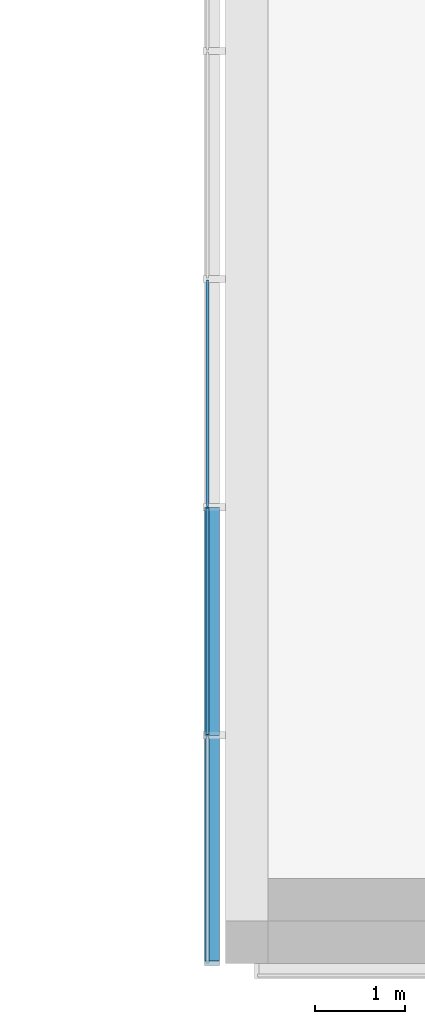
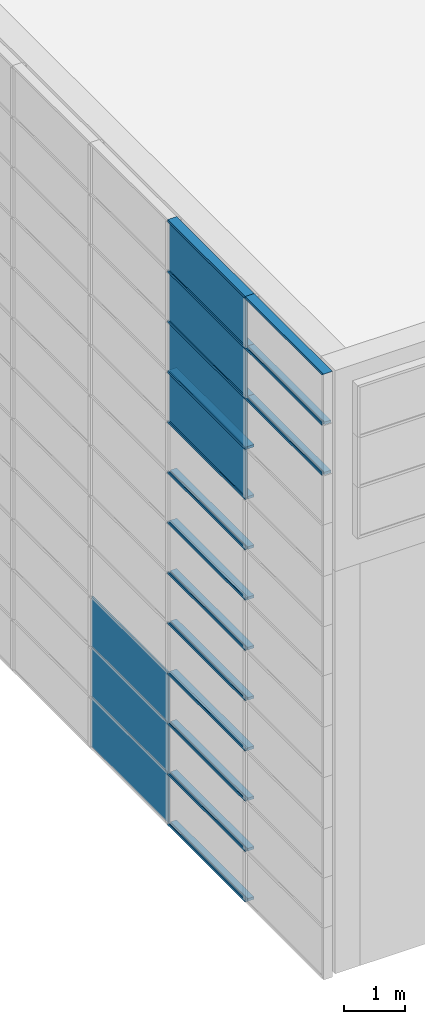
# One storey, part 7 of 105: 26 building element parts, 4 elements without a shape of their own.
"""IFC4 building model written with IfcOpenShell, lengths in millimetres."""

from ifc_helpers import new_model, entity, si_unit, converted_unit, derived_unit, direction, frame, origin_with_axes, place, context, subcontext, project, spatial, triangles, material, element, aggregate, save


model = new_model("IFC4")

# Units and contexts
model_context = context("Model", 3, precision=1e-05, world=origin_with_axes(), true_north=direction((0.0, 1.0)))
body_context = subcontext(model_context, "Body", "Model", "MODEL_VIEW")
ifc_project = project(units=[si_unit("LENGTHUNIT", "METRE", prefix="MILLI"), si_unit("AREAUNIT", "SQUARE_METRE"), si_unit("VOLUMEUNIT", "CUBIC_METRE"), converted_unit("PLANEANGLEUNIT", "DEGREE", entity("IfcLengthMeasure", 0.017453), si_unit("PLANEANGLEUNIT", "RADIAN"), dimensions=[0, 0, 0, 0, 0, 0, 0]), si_unit("SOLIDANGLEUNIT", "STERADIAN"), si_unit("MASSUNIT", "GRAM"), si_unit("TIMEUNIT", "SECOND"), si_unit("THERMODYNAMICTEMPERATUREUNIT", "DEGREE_CELSIUS"), si_unit("LUMINOUSINTENSITYUNIT", "LUMEN"), si_unit("POWERUNIT", "WATT"), derived_unit("THERMALTRANSMITTANCEUNIT", [(si_unit("POWERUNIT", "WATT"), 1), (si_unit("THERMODYNAMICTEMPERATUREUNIT", "KELVIN"), -1), (si_unit("AREAUNIT", "SQUARE_METRE"), -1)])], contexts=[model_context])

# Site, building, storey
site_placement = place(None, origin_with_axes())
site = spatial("IfcSite", under=ifc_project, at=site_placement, Name="Default Site", CompositionType="ELEMENT")
building_placement = place(site_placement, origin_with_axes())
building = spatial("IfcBuilding", under=site, at=building_placement, Name="Default Building", CompositionType="ELEMENT")
storey_placement = place(building_placement, origin_with_axes())
storey = spatial("IfcBuildingStorey", under=building, at=storey_placement, Name="OG - Story", CompositionType="ELEMENT", Elevation=0.0)

# Curtain wall, building element parts
curtain_wall_1_placement = place(storey_placement, origin_with_axes())
curtain_wall_1 = element("IfcCurtainWall", 1, at=curtain_wall_1_placement, inside=storey, Name="Fassade-003", PredefinedType="NOTDEFINED")
ifc_material_1 = material(Name="Normalglas")
building_element_part_1_placement = place(curtain_wall_1_placement, frame((31551.391327, -51326.104944, 0.0), z_axis=(0.0, 0.0, 1.0), x_axis=(1.0, 0.0, 0.0)))
building_element_part_1 = element("IfcBuildingElementPart", 2, at=building_element_part_1_placement, material=ifc_material_1, Name="Normalglas", PredefinedType="NOTDEFINED", context=body_context, shape_type="Tessellation", body=[
    triangles([(15.0, 6305.789, 995.0), (-14.999, 6305.789, 995.0), (-14.999, 3799.474, 995.0), (15.0, 3799.474, 995.0), (15.0, 6305.789, 5.0), (-14.999, 6305.789, 5.0), (-14.999, 3799.474, 5.0), (15.0, 3799.474, 5.0)], [[1, 2, 3], [1, 3, 4], [5, 6, 2], [5, 2, 1], [2, 6, 7], [2, 7, 3], [4, 3, 7], [4, 7, 8], [1, 4, 8], [1, 8, 5], [8, 7, 6], [8, 6, 5]], closed=False),
])
building_element_part_2_placement = place(curtain_wall_1_placement, frame((31551.391327, -51326.104944, 0.0), z_axis=(0.0, 0.0, 1.0), x_axis=(1.0, 0.0, 0.0)))
building_element_part_2 = element("IfcBuildingElementPart", 3, at=building_element_part_2_placement, material=ifc_material_1, Name="Normalglas", PredefinedType="NOTDEFINED", context=body_context, shape_type="Tessellation", body=[
    triangles([(15.0, 6305.789, 1995.0), (-14.999, 6305.789, 1995.0), (-14.999, 3799.474, 1995.0), (15.0, 3799.474, 1995.0), (15.0, 6305.789, 1005.0), (-14.999, 6305.789, 1005.0), (-14.999, 3799.474, 1005.0), (15.0, 3799.474, 1005.0)], [[1, 2, 3], [1, 3, 4], [5, 6, 2], [5, 2, 1], [2, 6, 7], [2, 7, 3], [4, 3, 7], [4, 7, 8], [1, 4, 8], [1, 8, 5], [8, 7, 6], [8, 6, 5]], closed=False),
])
building_element_part_3_placement = place(curtain_wall_1_placement, frame((31551.391327, -51326.104944, 0.0), z_axis=(0.0, 0.0, 1.0), x_axis=(1.0, 0.0, 0.0)))
building_element_part_3 = element("IfcBuildingElementPart", 4, at=building_element_part_3_placement, material=ifc_material_1, Name="Normalglas", PredefinedType="NOTDEFINED", context=body_context, shape_type="Tessellation", body=[
    triangles([(15.0, 6305.789, 2995.0), (-14.999, 6305.789, 2995.0), (-14.999, 3799.474, 2995.0), (15.0, 3799.474, 2995.0), (15.0, 6305.789, 2005.0), (-14.999, 6305.789, 2005.0), (-14.999, 3799.474, 2005.0), (15.0, 3799.474, 2005.0)], [[1, 2, 3], [1, 3, 4], [5, 6, 2], [5, 2, 1], [2, 6, 7], [2, 7, 3], [4, 3, 7], [4, 7, 8], [1, 4, 8], [1, 8, 5], [8, 7, 6], [8, 6, 5]], closed=False),
])
ifc_material_2 = material(Name="Blech")
building_element_part_4_placement = place(curtain_wall_1_placement, frame((31551.391327, -51326.104944, 0.0), z_axis=(0.0, 0.0, 1.0), x_axis=(1.0, 0.0, 0.0)))
building_element_part_4 = element("IfcBuildingElementPart", 5, at=building_element_part_4_placement, material=ifc_material_2, Name="Blech", PredefinedType="NOTDEFINED", context=body_context, shape_type="Tessellation", body=[
    triangles([(15.0, 3789.474, 25.0), (133.0, 3789.474, 25.0), (15.0, 3789.474, 5.0), (133.0, 3789.474, -24.999), (-14.999, 3789.474, 5.0), (-34.999, 3789.474, -24.999), (-34.999, 3789.474, 25.0), (-14.999, 3789.474, 25.0), (15.0, 1263.158, 5.0), (15.0, 1263.158, 25.0), (133.0, 1263.158, 25.0), (133.0, 1263.158, -24.999), (-34.999, 1263.158, -24.999), (-34.999, 1263.158, 25.0), (-14.999, 1263.158, 25.0), (-14.999, 1263.158, 5.0)], [[1, 2, 3], [3, 2, 4], [3, 4, 5], [5, 4, 6], [5, 6, 7], [5, 7, 8], [3, 9, 10], [3, 10, 1], [10, 11, 2], [10, 2, 1], [11, 12, 4], [11, 4, 2], [12, 13, 6], [12, 6, 4], [13, 14, 7], [13, 7, 6], [8, 7, 14], [8, 14, 15], [15, 16, 5], [15, 5, 8], [5, 16, 9], [5, 9, 3], [16, 9, 12], [16, 12, 13], [16, 13, 14], [16, 14, 15], [11, 12, 9], [11, 9, 10]], closed=False),
])
building_element_part_5_placement = place(curtain_wall_1_placement, frame((31551.391327, -51326.104944, 0.0), z_axis=(0.0, 0.0, 1.0), x_axis=(1.0, 0.0, 0.0)))
building_element_part_5 = element("IfcBuildingElementPart", 6, at=building_element_part_5_placement, material=ifc_material_2, Name="Blech", PredefinedType="NOTDEFINED", context=body_context, shape_type="Tessellation", body=[
    triangles([(-14.999, 3789.474, 1025.0), (-34.999, 3789.474, 1025.0), (-14.999, 3789.474, 1005.0), (-14.999, 3789.474, 995.0), (15.0, 3789.474, 1005.0), (133.0, 3789.474, 1025.0), (15.0, 3789.474, 1025.0), (-34.999, 3789.474, 975.0), (-14.999, 3789.474, 975.0), (15.0, 3789.474, 995.0), (15.0, 3789.474, 975.0), (133.0, 3789.474, 975.0), (15.0, 1263.158, 995.0), (-14.999, 1263.158, 995.0), (-14.999, 1263.158, 975.0), (-34.999, 1263.158, 975.0), (-34.999, 1263.158, 1025.0), (-14.999, 1263.158, 1025.0), (-14.999, 1263.158, 1005.0), (15.0, 1263.158, 1005.0), (15.0, 1263.158, 1025.0), (133.0, 1263.158, 1025.0), (133.0, 1263.158, 975.0), (15.0, 1263.158, 975.0)], [[1, 2, 3], [3, 2, 4], [3, 4, 5], [5, 4, 6], [5, 6, 7], [8, 9, 4], [8, 4, 2], [6, 4, 10], [6, 10, 11], [6, 11, 12], [10, 13, 14], [10, 14, 4], [4, 14, 15], [4, 15, 9], [15, 16, 8], [15, 8, 9], [8, 16, 17], [8, 17, 2], [18, 1, 2], [18, 2, 17], [1, 18, 19], [1, 19, 3], [5, 3, 19], [5, 19, 20], [7, 5, 20], [7, 20, 21], [7, 21, 22], [7, 22, 6], [6, 22, 23], [6, 23, 12], [11, 12, 23], [11, 23, 24], [11, 24, 13], [11, 13, 10], [21, 22, 20], [20, 22, 13], [20, 13, 19], [19, 13, 14], [19, 14, 17], [17, 14, 15], [17, 15, 16], [23, 24, 13], [23, 13, 22], [19, 17, 18]], closed=False),
])
building_element_part_6_placement = place(curtain_wall_1_placement, frame((31551.391327, -51326.104944, 0.0), z_axis=(0.0, 0.0, 1.0), x_axis=(1.0, 0.0, 0.0)))
building_element_part_6 = element("IfcBuildingElementPart", 7, at=building_element_part_6_placement, material=ifc_material_2, Name="Blech", PredefinedType="NOTDEFINED", context=body_context, shape_type="Tessellation", body=[
    triangles([(-14.999, 3789.474, 2025.0), (-34.999, 3789.474, 2025.0), (-14.999, 3789.474, 2005.0), (-14.999, 3789.474, 1995.0), (15.0, 3789.474, 2005.0), (133.0, 3789.474, 2025.0), (15.0, 3789.474, 2025.0), (-34.999, 3789.474, 1975.0), (-14.999, 3789.474, 1975.0), (15.0, 3789.474, 1995.0), (15.0, 3789.474, 1975.0), (133.0, 3789.474, 1975.0), (15.0, 1263.158, 1995.0), (-14.999, 1263.158, 1995.0), (-14.999, 1263.158, 1975.0), (-34.999, 1263.158, 1975.0), (-34.999, 1263.158, 2025.0), (-14.999, 1263.158, 2025.0), (-14.999, 1263.158, 2005.0), (15.0, 1263.158, 2005.0), (15.0, 1263.158, 2025.0), (133.0, 1263.158, 2025.0), (133.0, 1263.158, 1975.0), (15.0, 1263.158, 1975.0)], [[1, 2, 3], [3, 2, 4], [3, 4, 5], [5, 4, 6], [5, 6, 7], [8, 9, 4], [8, 4, 2], [6, 4, 10], [6, 10, 11], [6, 11, 12], [10, 13, 14], [10, 14, 4], [4, 14, 15], [4, 15, 9], [15, 16, 8], [15, 8, 9], [8, 16, 17], [8, 17, 2], [18, 1, 2], [18, 2, 17], [1, 18, 19], [1, 19, 3], [5, 3, 19], [5, 19, 20], [7, 5, 20], [7, 20, 21], [7, 21, 22], [7, 22, 6], [6, 22, 23], [6, 23, 12], [11, 12, 23], [11, 23, 24], [11, 24, 13], [11, 13, 10], [21, 22, 20], [20, 22, 13], [20, 13, 19], [19, 13, 14], [19, 14, 17], [17, 14, 15], [17, 15, 16], [23, 24, 13], [23, 13, 22], [19, 17, 18]], closed=False),
])
building_element_part_7_placement = place(curtain_wall_1_placement, frame((31551.391327, -51326.104944, 0.0), z_axis=(0.0, 0.0, 1.0), x_axis=(1.0, 0.0, 0.0)))
building_element_part_7 = element("IfcBuildingElementPart", 8, at=building_element_part_7_placement, material=ifc_material_2, Name="Blech", PredefinedType="NOTDEFINED", context=body_context, shape_type="Tessellation", body=[
    triangles([(-14.999, 3789.474, 2995.0), (15.0, 3789.474, 2995.0), (133.0, 3789.474, 3025.0), (-34.999, 3789.474, 3025.0), (-34.999, 3789.474, 2975.0), (-14.999, 3789.474, 2975.0), (15.0, 3789.474, 2975.0), (133.0, 3789.474, 2975.0), (15.0, 1263.158, 2995.0), (-14.999, 1263.158, 2995.0), (-14.999, 1263.158, 2975.0), (-34.999, 1263.158, 2975.0), (-34.999, 1263.158, 3025.0), (133.0, 1263.158, 3025.0), (133.0, 1263.158, 2975.0), (15.0, 1263.158, 2975.0)], [[1, 2, 3], [1, 3, 4], [1, 4, 5], [1, 5, 6], [7, 8, 3], [7, 3, 2], [1, 2, 9], [1, 9, 10], [11, 6, 1], [11, 1, 10], [6, 11, 12], [6, 12, 5], [13, 4, 5], [13, 5, 12], [14, 3, 4], [14, 4, 13], [15, 8, 3], [15, 3, 14], [16, 7, 8], [16, 8, 15], [2, 7, 16], [2, 16, 9], [10, 9, 14], [10, 14, 13], [10, 13, 12], [10, 12, 11], [16, 15, 14], [16, 14, 9]], closed=False),
])
aggregate(curtain_wall_1, [building_element_part_1, building_element_part_2, building_element_part_3, building_element_part_4, building_element_part_5, building_element_part_6, building_element_part_7])

curtain_wall_2_placement = place(storey_placement, origin_with_axes())
curtain_wall_2 = element("IfcCurtainWall", 9, at=curtain_wall_2_placement, inside=storey, Name="Fassade-003", PredefinedType="NOTDEFINED")
building_element_part_8_placement = place(curtain_wall_2_placement, frame((31551.391327, -51326.104944, 3000.0), z_axis=(0.0, 0.0, 1.0), x_axis=(1.0, 0.0, 0.0)))
building_element_part_8 = element("IfcBuildingElementPart", 10, at=building_element_part_8_placement, material=ifc_material_2, Name="Blech", PredefinedType="NOTDEFINED", context=body_context, shape_type="Tessellation", body=[
    triangles([(15.0, 3789.474, 25.0), (133.0, 3789.474, 25.0), (15.0, 3789.474, 5.0), (133.0, 3789.474, -24.999), (-14.999, 3789.474, 5.0), (-34.999, 3789.474, -24.999), (-34.999, 3789.474, 25.0), (-14.999, 3789.474, 25.0), (15.0, 1263.158, 5.0), (15.0, 1263.158, 25.0), (133.0, 1263.158, 25.0), (133.0, 1263.158, -24.999), (-34.999, 1263.158, -24.999), (-34.999, 1263.158, 25.0), (-14.999, 1263.158, 25.0), (-14.999, 1263.158, 5.0)], [[1, 2, 3], [3, 2, 4], [3, 4, 5], [5, 4, 6], [5, 6, 7], [5, 7, 8], [3, 9, 10], [3, 10, 1], [10, 11, 2], [10, 2, 1], [11, 12, 4], [11, 4, 2], [12, 13, 6], [12, 6, 4], [13, 14, 7], [13, 7, 6], [8, 7, 14], [8, 14, 15], [15, 16, 5], [15, 5, 8], [5, 16, 9], [5, 9, 3], [16, 9, 12], [16, 12, 13], [16, 13, 14], [16, 14, 15], [11, 12, 9], [11, 9, 10]], closed=False),
])
building_element_part_9_placement = place(curtain_wall_2_placement, frame((31551.391327, -51326.104944, 3000.0), z_axis=(0.0, 0.0, 1.0), x_axis=(1.0, 0.0, 0.0)))
building_element_part_9 = element("IfcBuildingElementPart", 11, at=building_element_part_9_placement, material=ifc_material_2, Name="Blech", PredefinedType="NOTDEFINED", context=body_context, shape_type="Tessellation", body=[
    triangles([(-14.999, 3789.474, 1025.0), (-34.999, 3789.474, 1025.0), (-14.999, 3789.474, 1005.0), (-14.999, 3789.474, 995.0), (15.0, 3789.474, 1005.0), (133.0, 3789.474, 1025.0), (15.0, 3789.474, 1025.0), (-34.999, 3789.474, 975.0), (-14.999, 3789.474, 975.0), (15.0, 3789.474, 995.0), (15.0, 3789.474, 975.0), (133.0, 3789.474, 975.0), (15.0, 1263.158, 995.0), (-14.999, 1263.158, 995.0), (-14.999, 1263.158, 975.0), (-34.999, 1263.158, 975.0), (-34.999, 1263.158, 1025.0), (-14.999, 1263.158, 1025.0), (-14.999, 1263.158, 1005.0), (15.0, 1263.158, 1005.0), (15.0, 1263.158, 1025.0), (133.0, 1263.158, 1025.0), (133.0, 1263.158, 975.0), (15.0, 1263.158, 975.0)], [[1, 2, 3], [3, 2, 4], [3, 4, 5], [5, 4, 6], [5, 6, 7], [8, 9, 4], [8, 4, 2], [6, 4, 10], [6, 10, 11], [6, 11, 12], [10, 13, 14], [10, 14, 4], [4, 14, 15], [4, 15, 9], [15, 16, 8], [15, 8, 9], [8, 16, 17], [8, 17, 2], [18, 1, 2], [18, 2, 17], [1, 18, 19], [1, 19, 3], [5, 3, 19], [5, 19, 20], [7, 5, 20], [7, 20, 21], [7, 21, 22], [7, 22, 6], [6, 22, 23], [6, 23, 12], [11, 12, 23], [11, 23, 24], [11, 24, 13], [11, 13, 10], [21, 22, 20], [20, 22, 13], [20, 13, 19], [19, 13, 14], [19, 14, 17], [17, 14, 15], [17, 15, 16], [23, 24, 13], [23, 13, 22], [19, 17, 18]], closed=False),
])
building_element_part_10_placement = place(curtain_wall_2_placement, frame((31551.391327, -51326.104944, 3000.0), z_axis=(0.0, 0.0, 1.0), x_axis=(1.0, 0.0, 0.0)))
building_element_part_10 = element("IfcBuildingElementPart", 12, at=building_element_part_10_placement, material=ifc_material_2, Name="Blech", PredefinedType="NOTDEFINED", context=body_context, shape_type="Tessellation", body=[
    triangles([(-14.999, 3789.474, 2025.0), (-34.999, 3789.474, 2025.0), (-14.999, 3789.474, 2005.0), (-14.999, 3789.474, 1995.0), (15.0, 3789.474, 2005.0), (133.0, 3789.474, 2025.0), (15.0, 3789.474, 2025.0), (-34.999, 3789.474, 1975.0), (-14.999, 3789.474, 1975.0), (15.0, 3789.474, 1995.0), (15.0, 3789.474, 1975.0), (133.0, 3789.474, 1975.0), (15.0, 1263.158, 1995.0), (-14.999, 1263.158, 1995.0), (-14.999, 1263.158, 1975.0), (-34.999, 1263.158, 1975.0), (-34.999, 1263.158, 2025.0), (-14.999, 1263.158, 2025.0), (-14.999, 1263.158, 2005.0), (15.0, 1263.158, 2005.0), (15.0, 1263.158, 2025.0), (133.0, 1263.158, 2025.0), (133.0, 1263.158, 1975.0), (15.0, 1263.158, 1975.0)], [[1, 2, 3], [3, 2, 4], [3, 4, 5], [5, 4, 6], [5, 6, 7], [8, 9, 4], [8, 4, 2], [6, 4, 10], [6, 10, 11], [6, 11, 12], [10, 13, 14], [10, 14, 4], [4, 14, 15], [4, 15, 9], [15, 16, 8], [15, 8, 9], [8, 16, 17], [8, 17, 2], [18, 1, 2], [18, 2, 17], [1, 18, 19], [1, 19, 3], [5, 3, 19], [5, 19, 20], [7, 5, 20], [7, 20, 21], [7, 21, 22], [7, 22, 6], [6, 22, 23], [6, 23, 12], [11, 12, 23], [11, 23, 24], [11, 24, 13], [11, 13, 10], [21, 22, 20], [20, 22, 13], [20, 13, 19], [19, 13, 14], [19, 14, 17], [17, 14, 15], [17, 15, 16], [23, 24, 13], [23, 13, 22], [19, 17, 18]], closed=False),
])
building_element_part_11_placement = place(curtain_wall_2_placement, frame((31551.391327, -51326.104944, 3000.0), z_axis=(0.0, 0.0, 1.0), x_axis=(1.0, 0.0, 0.0)))
building_element_part_11 = element("IfcBuildingElementPart", 13, at=building_element_part_11_placement, material=ifc_material_2, Name="Blech", PredefinedType="NOTDEFINED", context=body_context, shape_type="Tessellation", body=[
    triangles([(-14.999, 3789.474, 2995.0), (15.0, 3789.474, 2995.0), (133.0, 3789.474, 3025.0), (-34.999, 3789.474, 3025.0), (-34.999, 3789.474, 2975.0), (-14.999, 3789.474, 2975.0), (15.0, 3789.474, 2975.0), (133.0, 3789.474, 2975.0), (15.0, 1263.158, 2995.0), (-14.999, 1263.158, 2995.0), (-14.999, 1263.158, 2975.0), (-34.999, 1263.158, 2975.0), (-34.999, 1263.158, 3025.0), (133.0, 1263.158, 3025.0), (133.0, 1263.158, 2975.0), (15.0, 1263.158, 2975.0)], [[1, 2, 3], [1, 3, 4], [1, 4, 5], [1, 5, 6], [7, 8, 3], [7, 3, 2], [1, 2, 9], [1, 9, 10], [11, 6, 1], [11, 1, 10], [6, 11, 12], [6, 12, 5], [13, 4, 5], [13, 5, 12], [14, 3, 4], [14, 4, 13], [15, 8, 3], [15, 3, 14], [16, 7, 8], [16, 8, 15], [2, 7, 16], [2, 16, 9], [10, 9, 14], [10, 14, 13], [10, 13, 12], [10, 12, 11], [16, 15, 14], [16, 14, 9]], closed=False),
])
aggregate(curtain_wall_2, [building_element_part_8, building_element_part_9, building_element_part_10, building_element_part_11])

curtain_wall_3_placement = place(storey_placement, origin_with_axes())
curtain_wall_3 = element("IfcCurtainWall", 14, at=curtain_wall_3_placement, inside=storey, Name="Fassade-003", PredefinedType="NOTDEFINED")
building_element_part_12_placement = place(curtain_wall_3_placement, frame((31551.391327, -51326.104944, 6000.0), z_axis=(0.0, 0.0, 1.0), x_axis=(1.0, 0.0, 0.0)))
building_element_part_12 = element("IfcBuildingElementPart", 15, at=building_element_part_12_placement, material=ifc_material_1, Name="Normalglas", PredefinedType="NOTDEFINED", context=body_context, shape_type="Tessellation", body=[
    triangles([(15.0, 3779.474, 2995.0), (-14.999, 3779.474, 2995.0), (-14.999, 1273.158, 2995.0), (15.0, 1273.158, 2995.0), (15.0, 3779.474, 2005.0), (-14.999, 3779.474, 2005.0), (-14.999, 1273.158, 2005.0), (15.0, 1273.158, 2005.0)], [[1, 2, 3], [1, 3, 4], [5, 6, 2], [5, 2, 1], [2, 6, 7], [2, 7, 3], [4, 3, 7], [4, 7, 8], [1, 4, 8], [1, 8, 5], [8, 7, 6], [8, 6, 5]], closed=False),
])
building_element_part_13_placement = place(curtain_wall_3_placement, frame((31551.391327, -51326.104944, 6000.0), z_axis=(0.0, 0.0, 1.0), x_axis=(1.0, 0.0, 0.0)))
building_element_part_13 = element("IfcBuildingElementPart", 16, at=building_element_part_13_placement, material=ifc_material_2, Name="Blech", PredefinedType="NOTDEFINED", context=body_context, shape_type="Tessellation", body=[
    triangles([(15.0, 3789.474, 25.0), (133.0, 3789.474, 25.0), (15.0, 3789.474, 5.0), (133.0, 3789.474, -24.999), (-14.999, 3789.474, 5.0), (-34.999, 3789.474, -24.999), (-34.999, 3789.474, 25.0), (-14.999, 3789.474, 25.0), (15.0, 1263.158, 5.0), (15.0, 1263.158, 25.0), (133.0, 1263.158, 25.0), (133.0, 1263.158, -24.999), (-34.999, 1263.158, -24.999), (-34.999, 1263.158, 25.0), (-14.999, 1263.158, 25.0), (-14.999, 1263.158, 5.0)], [[1, 2, 3], [3, 2, 4], [3, 4, 5], [5, 4, 6], [5, 6, 7], [5, 7, 8], [3, 9, 10], [3, 10, 1], [10, 11, 2], [10, 2, 1], [11, 12, 4], [11, 4, 2], [12, 13, 6], [12, 6, 4], [13, 14, 7], [13, 7, 6], [8, 7, 14], [8, 14, 15], [15, 16, 5], [15, 5, 8], [5, 16, 9], [5, 9, 3], [16, 9, 12], [16, 12, 13], [16, 13, 14], [16, 14, 15], [11, 12, 9], [11, 9, 10]], closed=False),
])
building_element_part_14_placement = place(curtain_wall_3_placement, frame((31551.391327, -51326.104944, 6000.0), z_axis=(0.0, 0.0, 1.0), x_axis=(1.0, 0.0, 0.0)))
building_element_part_14 = element("IfcBuildingElementPart", 17, at=building_element_part_14_placement, material=ifc_material_2, Name="Blech", PredefinedType="NOTDEFINED", context=body_context, shape_type="Tessellation", body=[
    triangles([(-14.999, 3789.474, 1025.0), (-34.999, 3789.474, 1025.0), (-14.999, 3789.474, 1005.0), (-14.999, 3789.474, 995.0), (15.0, 3789.474, 1005.0), (133.0, 3789.474, 1025.0), (15.0, 3789.474, 1025.0), (-34.999, 3789.474, 975.0), (-14.999, 3789.474, 975.0), (15.0, 3789.474, 995.0), (15.0, 3789.474, 975.0), (133.0, 3789.474, 975.0), (15.0, 1263.158, 995.0), (-14.999, 1263.158, 995.0), (-14.999, 1263.158, 975.0), (-34.999, 1263.158, 975.0), (-34.999, 1263.158, 1025.0), (-14.999, 1263.158, 1025.0), (-14.999, 1263.158, 1005.0), (15.0, 1263.158, 1005.0), (15.0, 1263.158, 1025.0), (133.0, 1263.158, 1025.0), (133.0, 1263.158, 975.0), (15.0, 1263.158, 975.0)], [[1, 2, 3], [3, 2, 4], [3, 4, 5], [5, 4, 6], [5, 6, 7], [8, 9, 4], [8, 4, 2], [6, 4, 10], [6, 10, 11], [6, 11, 12], [10, 13, 14], [10, 14, 4], [4, 14, 15], [4, 15, 9], [15, 16, 8], [15, 8, 9], [8, 16, 17], [8, 17, 2], [18, 1, 2], [18, 2, 17], [1, 18, 19], [1, 19, 3], [5, 3, 19], [5, 19, 20], [7, 5, 20], [7, 20, 21], [7, 21, 22], [7, 22, 6], [6, 22, 23], [6, 23, 12], [11, 12, 23], [11, 23, 24], [11, 24, 13], [11, 13, 10], [21, 22, 20], [20, 22, 13], [20, 13, 19], [19, 13, 14], [19, 14, 17], [17, 14, 15], [17, 15, 16], [23, 24, 13], [23, 13, 22], [19, 17, 18]], closed=False),
])
building_element_part_15_placement = place(curtain_wall_3_placement, frame((31551.391327, -51326.104944, 6000.0), z_axis=(0.0, 0.0, 1.0), x_axis=(1.0, 0.0, 0.0)))
building_element_part_15 = element("IfcBuildingElementPart", 18, at=building_element_part_15_placement, material=ifc_material_2, Name="Blech", PredefinedType="NOTDEFINED", context=body_context, shape_type="Tessellation", body=[
    triangles([(-14.999, 3789.474, 2025.0), (-34.999, 3789.474, 2025.0), (-14.999, 3789.474, 2005.0), (-14.999, 3789.474, 1995.0), (15.0, 3789.474, 2005.0), (133.0, 3789.474, 2025.0), (15.0, 3789.474, 2025.0), (-34.999, 3789.474, 1975.0), (-14.999, 3789.474, 1975.0), (15.0, 3789.474, 1995.0), (15.0, 3789.474, 1975.0), (133.0, 3789.474, 1975.0), (15.0, 1263.158, 1995.0), (-14.999, 1263.158, 1995.0), (-14.999, 1263.158, 1975.0), (-34.999, 1263.158, 1975.0), (-34.999, 1263.158, 2025.0), (-14.999, 1263.158, 2025.0), (-14.999, 1263.158, 2005.0), (15.0, 1263.158, 2005.0), (15.0, 1263.158, 2025.0), (133.0, 1263.158, 2025.0), (133.0, 1263.158, 1975.0), (15.0, 1263.158, 1975.0)], [[1, 2, 3], [3, 2, 4], [3, 4, 5], [5, 4, 6], [5, 6, 7], [8, 9, 4], [8, 4, 2], [6, 4, 10], [6, 10, 11], [6, 11, 12], [10, 13, 14], [10, 14, 4], [4, 14, 15], [4, 15, 9], [15, 16, 8], [15, 8, 9], [8, 16, 17], [8, 17, 2], [18, 1, 2], [18, 2, 17], [1, 18, 19], [1, 19, 3], [5, 3, 19], [5, 19, 20], [7, 5, 20], [7, 20, 21], [7, 21, 22], [7, 22, 6], [6, 22, 23], [6, 23, 12], [11, 12, 23], [11, 23, 24], [11, 24, 13], [11, 13, 10], [21, 22, 20], [20, 22, 13], [20, 13, 19], [19, 13, 14], [19, 14, 17], [17, 14, 15], [17, 15, 16], [23, 24, 13], [23, 13, 22], [19, 17, 18]], closed=False),
])
building_element_part_16_placement = place(curtain_wall_3_placement, frame((31551.391327, -51326.104944, 6000.0), z_axis=(0.0, 0.0, 1.0), x_axis=(1.0, 0.0, 0.0)))
building_element_part_16 = element("IfcBuildingElementPart", 19, at=building_element_part_16_placement, material=ifc_material_2, Name="Blech", PredefinedType="NOTDEFINED", context=body_context, shape_type="Tessellation", body=[
    triangles([(-14.999, 3789.474, 2995.0), (15.0, 3789.474, 2995.0), (133.0, 3789.474, 3025.0), (-34.999, 3789.474, 3025.0), (-34.999, 3789.474, 2975.0), (-14.999, 3789.474, 2975.0), (15.0, 3789.474, 2975.0), (133.0, 3789.474, 2975.0), (15.0, 1263.158, 2995.0), (-14.999, 1263.158, 2995.0), (-14.999, 1263.158, 2975.0), (-34.999, 1263.158, 2975.0), (-34.999, 1263.158, 3025.0), (133.0, 1263.158, 3025.0), (133.0, 1263.158, 2975.0), (15.0, 1263.158, 2975.0)], [[1, 2, 3], [1, 3, 4], [1, 4, 5], [1, 5, 6], [7, 8, 3], [7, 3, 2], [1, 2, 9], [1, 9, 10], [11, 6, 1], [11, 1, 10], [6, 11, 12], [6, 12, 5], [13, 4, 5], [13, 5, 12], [14, 3, 4], [14, 4, 13], [15, 8, 3], [15, 3, 14], [16, 7, 8], [16, 8, 15], [2, 7, 16], [2, 16, 9], [10, 9, 14], [10, 14, 13], [10, 13, 12], [10, 12, 11], [16, 15, 14], [16, 14, 9]], closed=False),
])
aggregate(curtain_wall_3, [building_element_part_12, building_element_part_13, building_element_part_14, building_element_part_15, building_element_part_16])

curtain_wall_4_placement = place(storey_placement, origin_with_axes())
curtain_wall_4 = element("IfcCurtainWall", 20, at=curtain_wall_4_placement, inside=storey, Name="Fassade-003", PredefinedType="NOTDEFINED")
building_element_part_17_placement = place(curtain_wall_4_placement, frame((31551.391327, -51326.104944, 9000.0), z_axis=(0.0, 0.0, 1.0), x_axis=(1.0, 0.0, 0.0)))
building_element_part_17 = element("IfcBuildingElementPart", 21, at=building_element_part_17_placement, material=ifc_material_1, Name="Normalglas", PredefinedType="NOTDEFINED", context=body_context, shape_type="Tessellation", body=[
    triangles([(15.0, 3779.474, 995.0), (-14.999, 3779.474, 995.0), (-14.999, 1273.158, 995.0), (15.0, 1273.158, 995.0), (15.0, 3779.474, 5.0), (-14.999, 3779.474, 5.0), (-14.999, 1273.158, 5.0), (15.0, 1273.158, 5.0)], [[1, 2, 3], [1, 3, 4], [5, 6, 2], [5, 2, 1], [2, 6, 7], [2, 7, 3], [4, 3, 7], [4, 7, 8], [1, 4, 8], [1, 8, 5], [8, 7, 6], [8, 6, 5]], closed=False),
])
building_element_part_18_placement = place(curtain_wall_4_placement, frame((31551.391327, -51326.104944, 9000.0), z_axis=(0.0, 0.0, 1.0), x_axis=(1.0, 0.0, 0.0)))
building_element_part_18 = element("IfcBuildingElementPart", 22, at=building_element_part_18_placement, material=ifc_material_1, Name="Normalglas", PredefinedType="NOTDEFINED", context=body_context, shape_type="Tessellation", body=[
    triangles([(15.0, 3779.474, 1995.0), (-14.999, 3779.474, 1995.0), (-14.999, 1273.158, 1995.0), (15.0, 1273.158, 1995.0), (15.0, 3779.474, 1005.0), (-14.999, 3779.474, 1005.0), (-14.999, 1273.158, 1005.0), (15.0, 1273.158, 1005.0)], [[1, 2, 3], [1, 3, 4], [5, 6, 2], [5, 2, 1], [2, 6, 7], [2, 7, 3], [4, 3, 7], [4, 7, 8], [1, 4, 8], [1, 8, 5], [8, 7, 6], [8, 6, 5]], closed=False),
])
building_element_part_19_placement = place(curtain_wall_4_placement, frame((31551.391327, -51326.104944, 9000.0), z_axis=(0.0, 0.0, 1.0), x_axis=(1.0, 0.0, 0.0)))
building_element_part_19 = element("IfcBuildingElementPart", 23, at=building_element_part_19_placement, material=ifc_material_1, Name="Normalglas", PredefinedType="NOTDEFINED", context=body_context, shape_type="Tessellation", body=[
    triangles([(15.0, 3779.474, 2995.0), (-14.999, 3779.474, 2995.0), (-14.999, 1273.158, 2995.0), (15.0, 1273.158, 2995.0), (15.0, 3779.474, 2005.0), (-14.999, 3779.474, 2005.0), (-14.999, 1273.158, 2005.0), (15.0, 1273.158, 2005.0)], [[1, 2, 3], [1, 3, 4], [5, 6, 2], [5, 2, 1], [2, 6, 7], [2, 7, 3], [4, 3, 7], [4, 7, 8], [1, 4, 8], [1, 8, 5], [8, 7, 6], [8, 6, 5]], closed=False),
])
building_element_part_20_placement = place(curtain_wall_4_placement, frame((31551.391327, -51326.104944, 9000.0), z_axis=(0.0, 0.0, 1.0), x_axis=(1.0, 0.0, 0.0)))
building_element_part_20 = element("IfcBuildingElementPart", 24, at=building_element_part_20_placement, material=ifc_material_2, Name="Blech", PredefinedType="NOTDEFINED", context=body_context, shape_type="Tessellation", body=[
    triangles([(15.0, 3789.474, 25.0), (133.0, 3789.474, 25.0), (15.0, 3789.474, 5.0), (133.0, 3789.474, -24.999), (-14.999, 3789.474, 5.0), (-34.999, 3789.474, -24.999), (-34.999, 3789.474, 25.0), (-14.999, 3789.474, 25.0), (15.0, 1263.158, 5.0), (15.0, 1263.158, 25.0), (133.0, 1263.158, 25.0), (133.0, 1263.158, -24.999), (-34.999, 1263.158, -24.999), (-34.999, 1263.158, 25.0), (-14.999, 1263.158, 25.0), (-14.999, 1263.158, 5.0)], [[1, 2, 3], [3, 2, 4], [3, 4, 5], [5, 4, 6], [5, 6, 7], [5, 7, 8], [3, 9, 10], [3, 10, 1], [10, 11, 2], [10, 2, 1], [11, 12, 4], [11, 4, 2], [12, 13, 6], [12, 6, 4], [13, 14, 7], [13, 7, 6], [8, 7, 14], [8, 14, 15], [15, 16, 5], [15, 5, 8], [5, 16, 9], [5, 9, 3], [16, 9, 12], [16, 12, 13], [16, 13, 14], [16, 14, 15], [11, 12, 9], [11, 9, 10]], closed=False),
])
building_element_part_21_placement = place(curtain_wall_4_placement, frame((31551.391327, -51326.104944, 9000.0), z_axis=(0.0, 0.0, 1.0), x_axis=(1.0, 0.0, 0.0)))
building_element_part_21 = element("IfcBuildingElementPart", 25, at=building_element_part_21_placement, material=ifc_material_2, Name="Blech", PredefinedType="NOTDEFINED", context=body_context, shape_type="Tessellation", body=[
    triangles([(-14.999, 1263.158, 1025.0), (-34.999, 1263.158, 1025.0), (-14.999, 1263.158, 1005.0), (-14.999, 1263.158, 995.0), (15.0, 1263.158, 1005.0), (133.0, 1263.158, 1025.0), (15.0, 1263.158, 1025.0), (-34.999, 1263.158, 975.0), (-14.999, 1263.158, 975.0), (15.0, 1263.158, 995.0), (15.0, 1263.158, 975.0), (133.0, 1263.158, 975.0), (15.0, -1238.157, 995.0), (-14.999, -1238.157, 995.0), (-14.999, -1238.157, 975.0), (-34.999, -1238.157, 975.0), (-34.999, -1238.157, 1025.0), (-14.999, -1238.157, 1025.0), (-14.999, -1238.157, 1005.0), (15.0, -1238.157, 1005.0), (15.0, -1238.157, 1025.0), (133.0, -1238.157, 1025.0), (133.0, -1238.157, 975.0), (15.0, -1238.157, 975.0)], [[1, 2, 3], [3, 2, 4], [3, 4, 5], [5, 4, 6], [5, 6, 7], [8, 9, 4], [8, 4, 2], [6, 4, 10], [6, 10, 11], [6, 11, 12], [10, 13, 14], [10, 14, 4], [4, 14, 15], [4, 15, 9], [15, 16, 8], [15, 8, 9], [2, 8, 16], [2, 16, 17], [18, 1, 2], [18, 2, 17], [1, 18, 19], [1, 19, 3], [5, 3, 19], [5, 19, 20], [7, 5, 20], [7, 20, 21], [7, 21, 22], [7, 22, 6], [12, 6, 22], [12, 22, 23], [11, 12, 23], [11, 23, 24], [11, 24, 13], [11, 13, 10], [21, 22, 20], [20, 22, 13], [20, 13, 19], [19, 13, 14], [19, 14, 17], [17, 14, 15], [17, 15, 16], [23, 24, 13], [23, 13, 22], [19, 17, 18]], closed=False),
])
building_element_part_22_placement = place(curtain_wall_4_placement, frame((31551.391327, -51326.104944, 9000.0), z_axis=(0.0, 0.0, 1.0), x_axis=(1.0, 0.0, 0.0)))
building_element_part_22 = element("IfcBuildingElementPart", 26, at=building_element_part_22_placement, material=ifc_material_2, Name="Blech", PredefinedType="NOTDEFINED", context=body_context, shape_type="Tessellation", body=[
    triangles([(-14.999, 3789.474, 1025.0), (-34.999, 3789.474, 1025.0), (-14.999, 3789.474, 1005.0), (-14.999, 3789.474, 995.0), (15.0, 3789.474, 1005.0), (133.0, 3789.474, 1025.0), (15.0, 3789.474, 1025.0), (-34.999, 3789.474, 975.0), (-14.999, 3789.474, 975.0), (15.0, 3789.474, 995.0), (15.0, 3789.474, 975.0), (133.0, 3789.474, 975.0), (15.0, 1263.158, 995.0), (-14.999, 1263.158, 995.0), (-14.999, 1263.158, 975.0), (-34.999, 1263.158, 975.0), (-34.999, 1263.158, 1025.0), (-14.999, 1263.158, 1025.0), (-14.999, 1263.158, 1005.0), (15.0, 1263.158, 1005.0), (15.0, 1263.158, 1025.0), (133.0, 1263.158, 1025.0), (133.0, 1263.158, 975.0), (15.0, 1263.158, 975.0)], [[1, 2, 3], [3, 2, 4], [3, 4, 5], [5, 4, 6], [5, 6, 7], [8, 9, 4], [8, 4, 2], [6, 4, 10], [6, 10, 11], [6, 11, 12], [10, 13, 14], [10, 14, 4], [4, 14, 15], [4, 15, 9], [15, 16, 8], [15, 8, 9], [8, 16, 17], [8, 17, 2], [18, 1, 2], [18, 2, 17], [1, 18, 19], [1, 19, 3], [5, 3, 19], [5, 19, 20], [7, 5, 20], [7, 20, 21], [7, 21, 22], [7, 22, 6], [6, 22, 23], [6, 23, 12], [11, 12, 23], [11, 23, 24], [11, 24, 13], [11, 13, 10], [21, 22, 20], [20, 22, 13], [20, 13, 19], [19, 13, 14], [19, 14, 17], [17, 14, 15], [17, 15, 16], [23, 24, 13], [23, 13, 22], [19, 17, 18]], closed=False),
])
building_element_part_23_placement = place(curtain_wall_4_placement, frame((31551.391327, -51326.104944, 9000.0), z_axis=(0.0, 0.0, 1.0), x_axis=(1.0, 0.0, 0.0)))
building_element_part_23 = element("IfcBuildingElementPart", 27, at=building_element_part_23_placement, material=ifc_material_2, Name="Blech", PredefinedType="NOTDEFINED", context=body_context, shape_type="Tessellation", body=[
    triangles([(-14.999, 1263.158, 2025.0), (-34.999, 1263.158, 2025.0), (-14.999, 1263.158, 2005.0), (-14.999, 1263.158, 1995.0), (15.0, 1263.158, 2005.0), (133.0, 1263.158, 2025.0), (15.0, 1263.158, 2025.0), (-34.999, 1263.158, 1975.0), (-14.999, 1263.158, 1975.0), (15.0, 1263.158, 1995.0), (15.0, 1263.158, 1975.0), (133.0, 1263.158, 1975.0), (15.0, -1238.157, 1995.0), (-14.999, -1238.157, 1995.0), (-14.999, -1238.157, 1975.0), (-34.999, -1238.157, 1975.0), (-34.999, -1238.157, 2025.0), (-14.999, -1238.157, 2025.0), (-14.999, -1238.157, 2005.0), (15.0, -1238.157, 2005.0), (15.0, -1238.157, 2025.0), (133.0, -1238.157, 2025.0), (133.0, -1238.157, 1975.0), (15.0, -1238.157, 1975.0)], [[1, 2, 3], [3, 2, 4], [3, 4, 5], [5, 4, 6], [5, 6, 7], [8, 9, 4], [8, 4, 2], [6, 4, 10], [6, 10, 11], [6, 11, 12], [10, 13, 14], [10, 14, 4], [4, 14, 15], [4, 15, 9], [15, 16, 8], [15, 8, 9], [2, 8, 16], [2, 16, 17], [18, 1, 2], [18, 2, 17], [1, 18, 19], [1, 19, 3], [5, 3, 19], [5, 19, 20], [7, 5, 20], [7, 20, 21], [7, 21, 22], [7, 22, 6], [12, 6, 22], [12, 22, 23], [11, 12, 23], [11, 23, 24], [11, 24, 13], [11, 13, 10], [21, 22, 20], [20, 22, 13], [20, 13, 19], [19, 13, 14], [19, 14, 17], [17, 14, 15], [17, 15, 16], [23, 24, 13], [23, 13, 22], [19, 17, 18]], closed=False),
])
building_element_part_24_placement = place(curtain_wall_4_placement, frame((31551.391327, -51326.104944, 9000.0), z_axis=(0.0, 0.0, 1.0), x_axis=(1.0, 0.0, 0.0)))
building_element_part_24 = element("IfcBuildingElementPart", 28, at=building_element_part_24_placement, material=ifc_material_2, Name="Blech", PredefinedType="NOTDEFINED", context=body_context, shape_type="Tessellation", body=[
    triangles([(-14.999, 1263.158, 2995.0), (15.0, 1263.158, 2995.0), (133.0, 1263.158, 3025.0), (-34.999, 1263.158, 3025.0), (-34.999, 1263.158, 2975.0), (-14.999, 1263.158, 2975.0), (15.0, 1263.158, 2975.0), (133.0, 1263.158, 2975.0), (15.0, -1258.157, 2995.0), (-14.999, -1258.157, 2995.0), (-14.999, -1238.157, 2975.0), (-34.999, -1238.157, 2975.0), (-34.999, -1288.157, 3025.0), (133.0, -1288.157, 3025.0), (133.0, -1238.157, 2975.0), (15.0, -1238.157, 2975.0)], [[1, 2, 3], [1, 3, 4], [1, 4, 5], [1, 5, 6], [7, 8, 3], [7, 3, 2], [1, 2, 9], [1, 9, 10], [11, 6, 1], [11, 1, 10], [6, 11, 12], [6, 12, 5], [4, 5, 12], [4, 12, 13], [3, 4, 13], [3, 13, 14], [8, 3, 14], [8, 14, 15], [16, 7, 8], [16, 8, 15], [2, 7, 16], [2, 16, 9], [10, 9, 14], [10, 14, 13], [10, 13, 12], [10, 12, 11], [16, 15, 14], [16, 14, 9]], closed=False),
])
building_element_part_25_placement = place(curtain_wall_4_placement, frame((31551.391327, -51326.104944, 9000.0), z_axis=(0.0, 0.0, 1.0), x_axis=(1.0, 0.0, 0.0)))
building_element_part_25 = element("IfcBuildingElementPart", 29, at=building_element_part_25_placement, material=ifc_material_2, Name="Blech", PredefinedType="NOTDEFINED", context=body_context, shape_type="Tessellation", body=[
    triangles([(-14.999, 3789.474, 2025.0), (-34.999, 3789.474, 2025.0), (-14.999, 3789.474, 2005.0), (-14.999, 3789.474, 1995.0), (15.0, 3789.474, 2005.0), (133.0, 3789.474, 2025.0), (15.0, 3789.474, 2025.0), (-34.999, 3789.474, 1975.0), (-14.999, 3789.474, 1975.0), (15.0, 3789.474, 1995.0), (15.0, 3789.474, 1975.0), (133.0, 3789.474, 1975.0), (15.0, 1263.158, 1995.0), (-14.999, 1263.158, 1995.0), (-14.999, 1263.158, 1975.0), (-34.999, 1263.158, 1975.0), (-34.999, 1263.158, 2025.0), (-14.999, 1263.158, 2025.0), (-14.999, 1263.158, 2005.0), (15.0, 1263.158, 2005.0), (15.0, 1263.158, 2025.0), (133.0, 1263.158, 2025.0), (133.0, 1263.158, 1975.0), (15.0, 1263.158, 1975.0)], [[1, 2, 3], [3, 2, 4], [3, 4, 5], [5, 4, 6], [5, 6, 7], [8, 9, 4], [8, 4, 2], [6, 4, 10], [6, 10, 11], [6, 11, 12], [10, 13, 14], [10, 14, 4], [4, 14, 15], [4, 15, 9], [15, 16, 8], [15, 8, 9], [8, 16, 17], [8, 17, 2], [18, 1, 2], [18, 2, 17], [1, 18, 19], [1, 19, 3], [5, 3, 19], [5, 19, 20], [7, 5, 20], [7, 20, 21], [7, 21, 22], [7, 22, 6], [6, 22, 23], [6, 23, 12], [11, 12, 23], [11, 23, 24], [11, 24, 13], [11, 13, 10], [21, 22, 20], [20, 22, 13], [20, 13, 19], [19, 13, 14], [19, 14, 17], [17, 14, 15], [17, 15, 16], [23, 24, 13], [23, 13, 22], [19, 17, 18]], closed=False),
])
building_element_part_26_placement = place(curtain_wall_4_placement, frame((31551.391327, -51326.104944, 9000.0), z_axis=(0.0, 0.0, 1.0), x_axis=(1.0, 0.0, 0.0)))
building_element_part_26 = element("IfcBuildingElementPart", 30, at=building_element_part_26_placement, material=ifc_material_2, Name="Blech", PredefinedType="NOTDEFINED", context=body_context, shape_type="Tessellation", body=[
    triangles([(-14.999, 3789.474, 2995.0), (15.0, 3789.474, 2995.0), (133.0, 3789.474, 3025.0), (-34.999, 3789.474, 3025.0), (-34.999, 3789.474, 2975.0), (-14.999, 3789.474, 2975.0), (15.0, 3789.474, 2975.0), (133.0, 3789.474, 2975.0), (15.0, 1263.158, 2995.0), (-14.999, 1263.158, 2995.0), (-14.999, 1263.158, 2975.0), (-34.999, 1263.158, 2975.0), (-34.999, 1263.158, 3025.0), (133.0, 1263.158, 3025.0), (133.0, 1263.158, 2975.0), (15.0, 1263.158, 2975.0)], [[1, 2, 3], [1, 3, 4], [1, 4, 5], [1, 5, 6], [7, 8, 3], [7, 3, 2], [1, 2, 9], [1, 9, 10], [11, 6, 1], [11, 1, 10], [6, 11, 12], [6, 12, 5], [13, 4, 5], [13, 5, 12], [14, 3, 4], [14, 4, 13], [15, 8, 3], [15, 3, 14], [16, 7, 8], [16, 8, 15], [2, 7, 16], [2, 16, 9], [10, 9, 14], [10, 14, 13], [10, 13, 12], [10, 12, 11], [16, 15, 14], [16, 14, 9]], closed=False),
])
aggregate(curtain_wall_4, [building_element_part_17, building_element_part_18, building_element_part_19, building_element_part_20, building_element_part_21, building_element_part_22, building_element_part_23, building_element_part_24, building_element_part_25, building_element_part_26])

save(model, "model.ifc")
